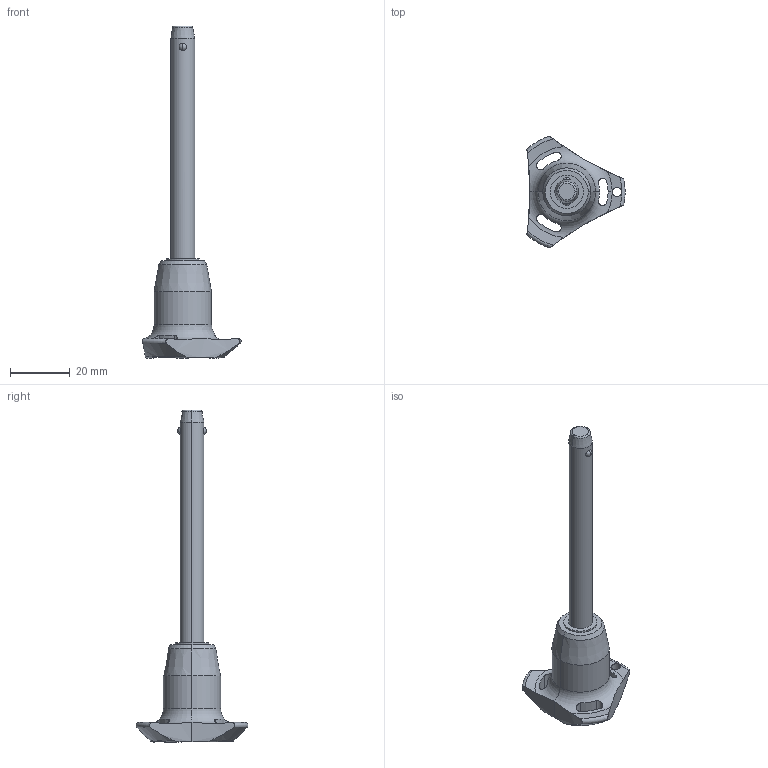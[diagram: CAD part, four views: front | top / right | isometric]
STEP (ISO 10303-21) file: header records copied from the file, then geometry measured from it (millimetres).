
FILE_DESCRIPTION (( 'STEP AP203' ), '1' );
FILE_NAME ('QR1704.M08-070-S.step', '2025-11-12T09:16:41', ( '' ), ( '' ), 'SwSTEP 2.0', 'SolidWorks 2019', '' );
FILE_SCHEMA (( 'CONFIG_CONTROL_DESIGN' ));
Length unit declared in the file: millimetre
Products named in the file (1): QR1704.M08-070-S
Bounding box: 33 x 37.51 x 111.5 mm (x, y, z)
Volume: 14168.8 mm3; surface area: 5813.9 mm2
Topology: 1 solids, 1 shells, 65 faces, 174 edges, 109 vertices
Faces by surface type: cylinder 30, cone 14, torus 11, sphere 6, plane 4
Entity records: 2746 total; most frequent: CARTESIAN_POINT 1073, ORIENTED_EDGE 348, DIRECTION 331, EDGE_CURVE 174, AXIS2_PLACEMENT_3D 147, VERTEX_POINT 109, CIRCLE 81, EDGE_LOOP 71
